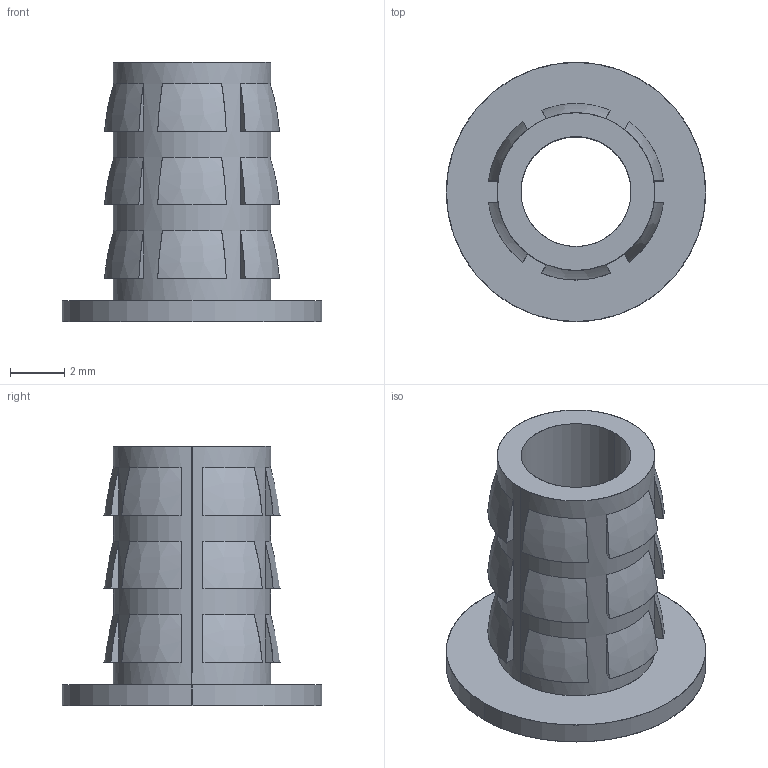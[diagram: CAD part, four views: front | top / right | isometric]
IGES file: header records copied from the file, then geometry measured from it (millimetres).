
Start section: SolidWorks IGES file using analytic representation for surfaces
Global section: file name: G:\thermofab project\INSERT\insert project\INSERT 3D\flanged insert 10-32.IGS; native system: SolidWorks 2015; preprocessor: SolidWorks 2015; author: Administrator; date: 170809.122703; units: millimetre
Bounding box: 9.53 x 9.53 x 9.53 mm (x, y, z)
Surface area: 451.5 mm2 (no closed solid volume)
Topology: 0 solids, 0 shells, 83 faces, 692 edges, 692 vertices
Faces by surface type: bspline 75, revolution 8
